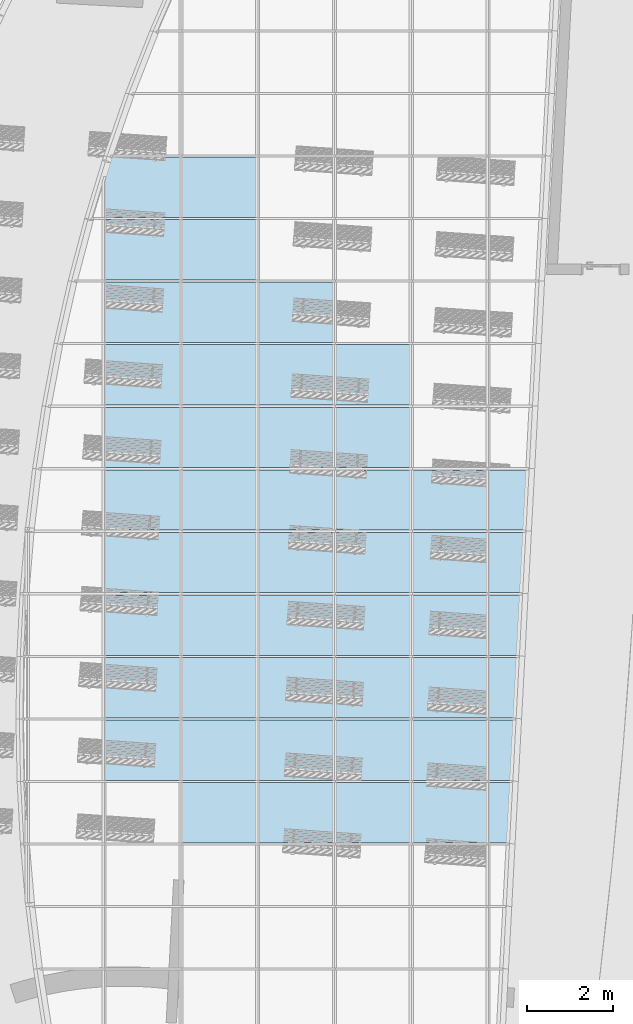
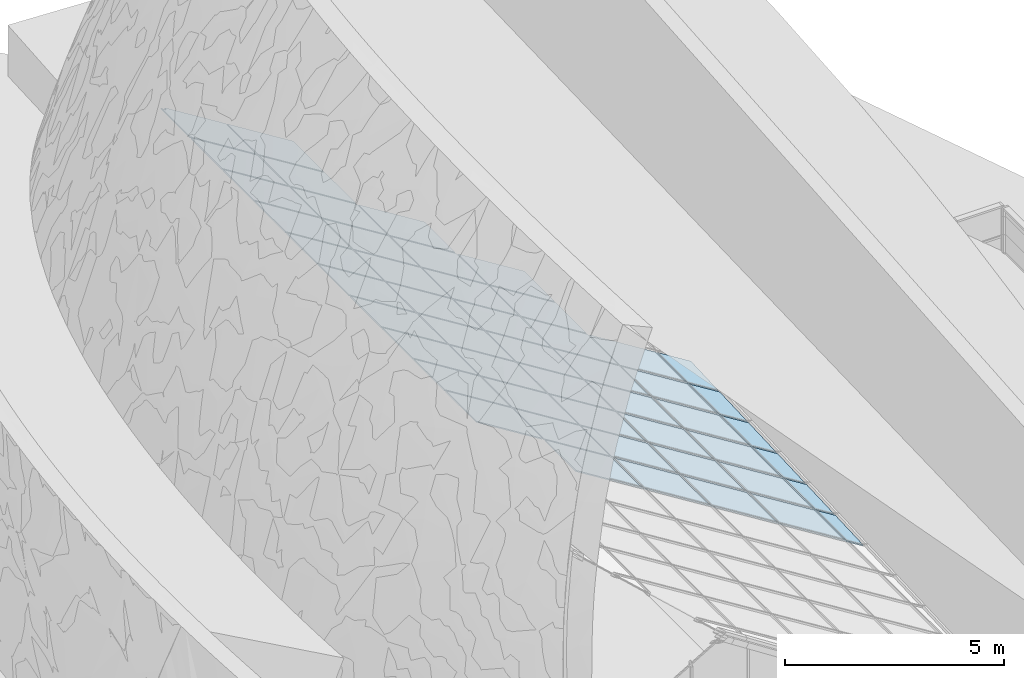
# One storey, part 40 of 82: 50 plates, 1 element without a shape of its own.
"""IFC2X3 building model written with IfcOpenShell, lengths in millimetres."""

from ifc_helpers import new_model, entity, si_unit, converted_unit, derived_unit, direction, frame, frame_2d, origin, place, context, subcontext, project, spatial, polyline, rectangle, outline, extrude, source, transform, mapped, material, layer, layer_set, layer_usage, type_object, type_shapes, element, aggregate, save


model = new_model("IFC2X3")

# Units and contexts
model_context = context("Model", 3, precision=0.01, world=origin(), true_north=direction((6.12303176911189e-17, 1.0)))
body_context = subcontext(model_context, "Body", "Model", "MODEL_VIEW")
ifc_project = project(units=[si_unit("LENGTHUNIT", "METRE", prefix="MILLI"), si_unit("AREAUNIT", "SQUARE_METRE"), si_unit("VOLUMEUNIT", "CUBIC_METRE"), converted_unit("PLANEANGLEUNIT", "DEGREE", entity("IfcRatioMeasure", 0.0174532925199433), si_unit("PLANEANGLEUNIT", "RADIAN"), dimensions=[0, 0, 0, 0, 0, 0, 0]), si_unit("MASSUNIT", "GRAM", prefix="KILO"), derived_unit("MASSDENSITYUNIT", [(si_unit("MASSUNIT", "GRAM", prefix="KILO"), 1), (si_unit("LENGTHUNIT", "METRE"), -3)]), si_unit("TIMEUNIT", "SECOND"), si_unit("FREQUENCYUNIT", "HERTZ"), si_unit("THERMODYNAMICTEMPERATUREUNIT", "DEGREE_CELSIUS"), derived_unit("THERMALTRANSMITTANCEUNIT", [(si_unit("MASSUNIT", "GRAM", prefix="KILO"), 1), (si_unit("THERMODYNAMICTEMPERATUREUNIT", "KELVIN"), -1), (si_unit("TIMEUNIT", "SECOND"), -3)]), derived_unit("VOLUMETRICFLOWRATEUNIT", [(si_unit("LENGTHUNIT", "METRE"), 3), (si_unit("TIMEUNIT", "SECOND"), -1)]), si_unit("ELECTRICCURRENTUNIT", "AMPERE"), si_unit("ELECTRICVOLTAGEUNIT", "VOLT"), si_unit("POWERUNIT", "WATT"), si_unit("FORCEUNIT", "NEWTON", prefix="KILO"), si_unit("ILLUMINANCEUNIT", "LUX"), si_unit("LUMINOUSFLUXUNIT", "LUMEN"), si_unit("LUMINOUSINTENSITYUNIT", "CANDELA"), derived_unit("USERDEFINED", [(si_unit("MASSUNIT", "GRAM", prefix="KILO"), -1), (si_unit("LENGTHUNIT", "METRE"), -2), (si_unit("TIMEUNIT", "SECOND"), 3), (si_unit("LUMINOUSFLUXUNIT", "LUMEN"), 1)]), derived_unit("LINEARVELOCITYUNIT", [(si_unit("LENGTHUNIT", "METRE"), 1), (si_unit("TIMEUNIT", "SECOND"), -1)]), si_unit("PRESSUREUNIT", "PASCAL"), derived_unit("USERDEFINED", [(si_unit("LENGTHUNIT", "METRE"), -2), (si_unit("MASSUNIT", "GRAM", prefix="KILO"), 1), (si_unit("TIMEUNIT", "SECOND"), -2)])], contexts=[model_context])

# Site, building, storey
site_placement = place(None, origin())
site = spatial("IfcSite", under=ifc_project, at=site_placement, Name="表面", CompositionType="ELEMENT")
building_placement = place(site_placement, origin())
building = spatial("IfcBuilding", under=site, at=building_placement, CompositionType="ELEMENT")
storey_placement = place(building_placement, origin())
storey = spatial("IfcBuildingStorey", under=building, at=storey_placement, Name="1F", CompositionType="ELEMENT", Elevation=0.0)

# Curtain wall, plates
curtain_wall_type = type_object("IfcCurtainWallType", Name="幕墙系统:1450 x 2100mm", PredefinedType="NOTDEFINED")
curtain_wall_placement = place(storey_placement, origin())
curtain_wall = element("IfcCurtainWall", 1, at=curtain_wall_placement, inside=storey, type_object=curtain_wall_type, Name="幕墙系统:1450 x 2100mm", ObjectType="幕墙系统:1450 x 2100mm")
ifc_material = material(Name="<Unnamed>")
ifc_layer = layer(ifc_material, 30.0)
ifc_layer_set = layer_set([ifc_layer], Name="幕墙系统:1450 x 2100mm")
ifc_layer_usage_1 = layer_usage(ifc_layer_set, "AXIS3", "POSITIVE", 0.0)
plate_type_1 = type_object("IfcPlateType", Name="玻璃", PredefinedType="CURTAIN_PANEL", material=ifc_layer_set)
shared_shape_1 = source(origin(), body_context, "Body", "SweptSolid", [
    extrude(rectangle(XDim=30.0, YDim=1400.0, at=frame_2d((0.0, 3.97903932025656e-13), x_axis=(1.0, 0.0))), frame((0.0, 0.0, 0.0), z_axis=(0.0, 0.0, 1.0), x_axis=(0.0, 1.0, 0.0)), (0.0, 0.0, 1.0), 2050.0),
])
type_shapes(plate_type_1, [shared_shape_1])
plate_1_placement = place(curtain_wall_placement, frame((-19940.3008154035, -12663.9031535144, 12156.2797786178), z_axis=(-0.848048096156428, 0.0, 0.529919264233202), x_axis=(0.0, -1.0, 0.0)))
plate_1 = element("IfcPlate", 2, at=plate_1_placement, type_object=plate_type_1, material=ifc_layer_usage_1, Name="系统嵌板:玻璃", ObjectType="玻璃", context=body_context, shape_type="MappedRepresentation", body=[
    mapped(shared_shape_1, transform((0.0, 0.0, 0.0), scale=1.0)),
])
ifc_layer_usage_2 = layer_usage(ifc_layer_set, "AXIS3", "POSITIVE", 0.0)
plate_2_placement = place(curtain_wall_placement, frame((-19940.3008154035, -14113.9031535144, 12156.2797786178), z_axis=(-0.848048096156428, 0.0, 0.529919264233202), x_axis=(0.0, -1.0, 0.0)))
plate_2 = element("IfcPlate", 3, at=plate_2_placement, type_object=plate_type_1, material=ifc_layer_usage_2, Name="系统嵌板:玻璃", ObjectType="玻璃", context=body_context, shape_type="MappedRepresentation", body=[
    mapped(shared_shape_1, transform((0.0, 0.0, 0.0), scale=1.0)),
])
ifc_layer_usage_3 = layer_usage(ifc_layer_set, "AXIS3", "POSITIVE", 0.0)
plate_3_placement = place(curtain_wall_placement, frame((-19940.3008154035, -15563.9031535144, 12156.2797786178), z_axis=(-0.848048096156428, 0.0, 0.529919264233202), x_axis=(0.0, -1.0, 0.0)))
plate_3 = element("IfcPlate", 4, at=plate_3_placement, type_object=plate_type_1, material=ifc_layer_usage_3, Name="系统嵌板:玻璃", ObjectType="玻璃", context=body_context, shape_type="MappedRepresentation", body=[
    mapped(shared_shape_1, transform((0.0, 0.0, 0.0), scale=1.0)),
])
ifc_layer_usage_4 = layer_usage(ifc_layer_set, "AXIS3", "POSITIVE", 0.0)
plate_4_placement = place(curtain_wall_placement, frame((-19940.3008154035, -17013.9031535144, 12156.2797786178), z_axis=(-0.848048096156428, 0.0, 0.529919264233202), x_axis=(0.0, -1.0, 0.0)))
plate_4 = element("IfcPlate", 5, at=plate_4_placement, type_object=plate_type_1, material=ifc_layer_usage_4, Name="系统嵌板:玻璃", ObjectType="玻璃", context=body_context, shape_type="MappedRepresentation", body=[
    mapped(shared_shape_1, transform((0.0, 0.0, 0.0), scale=1.0)),
])
ifc_layer_usage_5 = layer_usage(ifc_layer_set, "AXIS3", "POSITIVE", 0.0)
plate_5_placement = place(curtain_wall_placement, frame((-19940.3008154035, -18463.9031535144, 12156.2797786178), z_axis=(-0.848048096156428, 0.0, 0.529919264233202), x_axis=(0.0, -1.0, 0.0)))
plate_5 = element("IfcPlate", 6, at=plate_5_placement, type_object=plate_type_1, material=ifc_layer_usage_5, Name="系统嵌板:玻璃", ObjectType="玻璃", context=body_context, shape_type="MappedRepresentation", body=[
    mapped(shared_shape_1, transform((0.0, 0.0, 0.0), scale=1.0)),
])
ifc_layer_usage_6 = layer_usage(ifc_layer_set, "AXIS3", "POSITIVE", 0.0)
plate_6_placement = place(curtain_wall_placement, frame((-19940.3008154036, -19913.9031535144, 12156.2797786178), z_axis=(-0.848048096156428, 0.0, 0.529919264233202), x_axis=(0.0, -1.0, 0.0)))
plate_6 = element("IfcPlate", 7, at=plate_6_placement, type_object=plate_type_1, material=ifc_layer_usage_6, Name="系统嵌板:玻璃", ObjectType="玻璃", context=body_context, shape_type="MappedRepresentation", body=[
    mapped(shared_shape_1, transform((0.0, 0.0, 0.0), scale=1.0)),
])
ifc_layer_usage_7 = layer_usage(ifc_layer_set, "AXIS3", "POSITIVE", 0.0)
plate_7_placement = place(curtain_wall_placement, frame((-21721.201817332, -9763.90315351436, 13269.1102335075), z_axis=(-0.848048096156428, 0.0, 0.529919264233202), x_axis=(0.0, -1.0, 0.0)))
plate_7 = element("IfcPlate", 8, at=plate_7_placement, type_object=plate_type_1, material=ifc_layer_usage_7, Name="系统嵌板:玻璃", ObjectType="玻璃", context=body_context, shape_type="MappedRepresentation", body=[
    mapped(shared_shape_1, transform((0.0, 0.0, 0.0), scale=1.0)),
])
ifc_layer_usage_8 = layer_usage(ifc_layer_set, "AXIS3", "POSITIVE", 0.0)
plate_8_placement = place(curtain_wall_placement, frame((-21721.201817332, -11213.9031535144, 13269.1102335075), z_axis=(-0.848048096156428, 0.0, 0.529919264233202), x_axis=(0.0, -1.0, 0.0)))
plate_8 = element("IfcPlate", 9, at=plate_8_placement, type_object=plate_type_1, material=ifc_layer_usage_8, Name="系统嵌板:玻璃", ObjectType="玻璃", context=body_context, shape_type="MappedRepresentation", body=[
    mapped(shared_shape_1, transform((0.0, 0.0, 0.0), scale=1.0)),
])
ifc_layer_usage_9 = layer_usage(ifc_layer_set, "AXIS3", "POSITIVE", 0.0)
plate_9_placement = place(curtain_wall_placement, frame((-21721.201817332, -12663.9031535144, 13269.1102335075), z_axis=(-0.848048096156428, 0.0, 0.529919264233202), x_axis=(0.0, -1.0, 0.0)))
plate_9 = element("IfcPlate", 10, at=plate_9_placement, type_object=plate_type_1, material=ifc_layer_usage_9, Name="系统嵌板:玻璃", ObjectType="玻璃", context=body_context, shape_type="MappedRepresentation", body=[
    mapped(shared_shape_1, transform((0.0, 0.0, 0.0), scale=1.0)),
])
ifc_layer_usage_10 = layer_usage(ifc_layer_set, "AXIS3", "POSITIVE", 0.0)
plate_10_placement = place(curtain_wall_placement, frame((-21721.201817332, -14113.9031535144, 13269.1102335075), z_axis=(-0.848048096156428, 0.0, 0.529919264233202), x_axis=(0.0, -1.0, 0.0)))
plate_10 = element("IfcPlate", 11, at=plate_10_placement, type_object=plate_type_1, material=ifc_layer_usage_10, Name="系统嵌板:玻璃", ObjectType="玻璃", context=body_context, shape_type="MappedRepresentation", body=[
    mapped(shared_shape_1, transform((0.0, 0.0, 0.0), scale=1.0)),
])
ifc_layer_usage_11 = layer_usage(ifc_layer_set, "AXIS3", "POSITIVE", 0.0)
plate_11_placement = place(curtain_wall_placement, frame((-21721.201817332, -15563.9031535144, 13269.1102335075), z_axis=(-0.848048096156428, 0.0, 0.529919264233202), x_axis=(0.0, -1.0, 0.0)))
plate_11 = element("IfcPlate", 12, at=plate_11_placement, type_object=plate_type_1, material=ifc_layer_usage_11, Name="系统嵌板:玻璃", ObjectType="玻璃", context=body_context, shape_type="MappedRepresentation", body=[
    mapped(shared_shape_1, transform((0.0, 0.0, 0.0), scale=1.0)),
])
ifc_layer_usage_12 = layer_usage(ifc_layer_set, "AXIS3", "POSITIVE", 0.0)
plate_12_placement = place(curtain_wall_placement, frame((-21721.201817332, -17013.9031535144, 13269.1102335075), z_axis=(-0.848048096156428, 0.0, 0.529919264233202), x_axis=(0.0, -1.0, 0.0)))
plate_12 = element("IfcPlate", 13, at=plate_12_placement, type_object=plate_type_1, material=ifc_layer_usage_12, Name="系统嵌板:玻璃", ObjectType="玻璃", context=body_context, shape_type="MappedRepresentation", body=[
    mapped(shared_shape_1, transform((0.0, 0.0, 0.0), scale=1.0)),
])
ifc_layer_usage_13 = layer_usage(ifc_layer_set, "AXIS3", "POSITIVE", 0.0)
plate_13_placement = place(curtain_wall_placement, frame((-21721.201817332, -18463.9031535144, 13269.1102335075), z_axis=(-0.848048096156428, 0.0, 0.529919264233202), x_axis=(0.0, -1.0, 0.0)))
plate_13 = element("IfcPlate", 14, at=plate_13_placement, type_object=plate_type_1, material=ifc_layer_usage_13, Name="系统嵌板:玻璃", ObjectType="玻璃", context=body_context, shape_type="MappedRepresentation", body=[
    mapped(shared_shape_1, transform((0.0, 0.0, 0.0), scale=1.0)),
])
ifc_layer_usage_14 = layer_usage(ifc_layer_set, "AXIS3", "POSITIVE", 0.0)
plate_14_placement = place(curtain_wall_placement, frame((-21721.2018173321, -19913.9031535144, 13269.1102335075), z_axis=(-0.848048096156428, 0.0, 0.529919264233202), x_axis=(0.0, -1.0, 0.0)))
plate_14 = element("IfcPlate", 15, at=plate_14_placement, type_object=plate_type_1, material=ifc_layer_usage_14, Name="系统嵌板:玻璃", ObjectType="玻璃", context=body_context, shape_type="MappedRepresentation", body=[
    mapped(shared_shape_1, transform((0.0, 0.0, 0.0), scale=1.0)),
])
ifc_layer_usage_15 = layer_usage(ifc_layer_set, "AXIS3", "POSITIVE", 0.0)
plate_15_placement = place(curtain_wall_placement, frame((-23502.1028192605, -8313.90315351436, 14381.9406883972), z_axis=(-0.848048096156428, 0.0, 0.529919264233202), x_axis=(0.0, -1.0, 0.0)))
plate_15 = element("IfcPlate", 16, at=plate_15_placement, type_object=plate_type_1, material=ifc_layer_usage_15, Name="系统嵌板:玻璃", ObjectType="玻璃", context=body_context, shape_type="MappedRepresentation", body=[
    mapped(shared_shape_1, transform((0.0, 0.0, 0.0), scale=1.0)),
])
ifc_layer_usage_16 = layer_usage(ifc_layer_set, "AXIS3", "POSITIVE", 0.0)
plate_16_placement = place(curtain_wall_placement, frame((-23502.1028192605, -9763.90315351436, 14381.9406883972), z_axis=(-0.848048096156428, 0.0, 0.529919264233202), x_axis=(0.0, -1.0, 0.0)))
plate_16 = element("IfcPlate", 17, at=plate_16_placement, type_object=plate_type_1, material=ifc_layer_usage_16, Name="系统嵌板:玻璃", ObjectType="玻璃", context=body_context, shape_type="MappedRepresentation", body=[
    mapped(shared_shape_1, transform((0.0, 0.0, 0.0), scale=1.0)),
])
ifc_layer_usage_17 = layer_usage(ifc_layer_set, "AXIS3", "POSITIVE", 0.0)
plate_17_placement = place(curtain_wall_placement, frame((-23502.1028192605, -11213.9031535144, 14381.9406883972), z_axis=(-0.848048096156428, 0.0, 0.529919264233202), x_axis=(0.0, -1.0, 0.0)))
plate_17 = element("IfcPlate", 18, at=plate_17_placement, type_object=plate_type_1, material=ifc_layer_usage_17, Name="系统嵌板:玻璃", ObjectType="玻璃", context=body_context, shape_type="MappedRepresentation", body=[
    mapped(shared_shape_1, transform((0.0, 0.0, 0.0), scale=1.0)),
])
ifc_layer_usage_18 = layer_usage(ifc_layer_set, "AXIS3", "POSITIVE", 0.0)
plate_18_placement = place(curtain_wall_placement, frame((-23502.1028192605, -12663.9031535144, 14381.9406883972), z_axis=(-0.848048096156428, 0.0, 0.529919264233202), x_axis=(0.0, -1.0, 0.0)))
plate_18 = element("IfcPlate", 19, at=plate_18_placement, type_object=plate_type_1, material=ifc_layer_usage_18, Name="系统嵌板:玻璃", ObjectType="玻璃", context=body_context, shape_type="MappedRepresentation", body=[
    mapped(shared_shape_1, transform((0.0, 0.0, 0.0), scale=1.0)),
])
ifc_layer_usage_19 = layer_usage(ifc_layer_set, "AXIS3", "POSITIVE", 0.0)
plate_19_placement = place(curtain_wall_placement, frame((-23502.1028192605, -14113.9031535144, 14381.9406883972), z_axis=(-0.848048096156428, 0.0, 0.529919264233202), x_axis=(0.0, -1.0, 0.0)))
plate_19 = element("IfcPlate", 20, at=plate_19_placement, type_object=plate_type_1, material=ifc_layer_usage_19, Name="系统嵌板:玻璃", ObjectType="玻璃", context=body_context, shape_type="MappedRepresentation", body=[
    mapped(shared_shape_1, transform((0.0, 0.0, 0.0), scale=1.0)),
])
ifc_layer_usage_20 = layer_usage(ifc_layer_set, "AXIS3", "POSITIVE", 0.0)
plate_20_placement = place(curtain_wall_placement, frame((-23502.1028192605, -15563.9031535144, 14381.9406883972), z_axis=(-0.848048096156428, 0.0, 0.529919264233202), x_axis=(0.0, -1.0, 0.0)))
plate_20 = element("IfcPlate", 21, at=plate_20_placement, type_object=plate_type_1, material=ifc_layer_usage_20, Name="系统嵌板:玻璃", ObjectType="玻璃", context=body_context, shape_type="MappedRepresentation", body=[
    mapped(shared_shape_1, transform((0.0, 0.0, 0.0), scale=1.0)),
])
ifc_layer_usage_21 = layer_usage(ifc_layer_set, "AXIS3", "POSITIVE", 0.0)
plate_21_placement = place(curtain_wall_placement, frame((-23502.1028192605, -17013.9031535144, 14381.9406883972), z_axis=(-0.848048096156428, 0.0, 0.529919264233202), x_axis=(0.0, -1.0, 0.0)))
plate_21 = element("IfcPlate", 22, at=plate_21_placement, type_object=plate_type_1, material=ifc_layer_usage_21, Name="系统嵌板:玻璃", ObjectType="玻璃", context=body_context, shape_type="MappedRepresentation", body=[
    mapped(shared_shape_1, transform((0.0, 0.0, 0.0), scale=1.0)),
])
ifc_layer_usage_22 = layer_usage(ifc_layer_set, "AXIS3", "POSITIVE", 0.0)
plate_22_placement = place(curtain_wall_placement, frame((-23502.1028192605, -18463.9031535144, 14381.9406883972), z_axis=(-0.848048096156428, 0.0, 0.529919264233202), x_axis=(0.0, -1.0, 0.0)))
plate_22 = element("IfcPlate", 23, at=plate_22_placement, type_object=plate_type_1, material=ifc_layer_usage_22, Name="系统嵌板:玻璃", ObjectType="玻璃", context=body_context, shape_type="MappedRepresentation", body=[
    mapped(shared_shape_1, transform((0.0, 0.0, 0.0), scale=1.0)),
])
ifc_layer_usage_23 = layer_usage(ifc_layer_set, "AXIS3", "POSITIVE", 0.0)
plate_23_placement = place(curtain_wall_placement, frame((-23502.1028192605, -19913.9031535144, 14381.9406883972), z_axis=(-0.848048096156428, 0.0, 0.529919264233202), x_axis=(0.0, -1.0, 0.0)))
plate_23 = element("IfcPlate", 24, at=plate_23_placement, type_object=plate_type_1, material=ifc_layer_usage_23, Name="系统嵌板:玻璃", ObjectType="玻璃", context=body_context, shape_type="MappedRepresentation", body=[
    mapped(shared_shape_1, transform((0.0, 0.0, 0.0), scale=1.0)),
])
ifc_layer_usage_24 = layer_usage(ifc_layer_set, "AXIS3", "POSITIVE", 0.0)
plate_24_placement = place(curtain_wall_placement, frame((-25283.003821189, -5413.90315351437, 15494.7711432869), z_axis=(-0.848048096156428, 0.0, 0.529919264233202), x_axis=(0.0, -1.0, 0.0)))
plate_24 = element("IfcPlate", 25, at=plate_24_placement, type_object=plate_type_1, material=ifc_layer_usage_24, Name="系统嵌板:玻璃", ObjectType="玻璃", context=body_context, shape_type="MappedRepresentation", body=[
    mapped(shared_shape_1, transform((0.0, 0.0, 0.0), scale=1.0)),
])
ifc_layer_usage_25 = layer_usage(ifc_layer_set, "AXIS3", "POSITIVE", 0.0)
plate_25_placement = place(curtain_wall_placement, frame((-25283.003821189, -6863.90315351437, 15494.7711432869), z_axis=(-0.848048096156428, 0.0, 0.529919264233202), x_axis=(0.0, -1.0, 0.0)))
plate_25 = element("IfcPlate", 26, at=plate_25_placement, type_object=plate_type_1, material=ifc_layer_usage_25, Name="系统嵌板:玻璃", ObjectType="玻璃", context=body_context, shape_type="MappedRepresentation", body=[
    mapped(shared_shape_1, transform((0.0, 0.0, 0.0), scale=1.0)),
])
ifc_layer_usage_26 = layer_usage(ifc_layer_set, "AXIS3", "POSITIVE", 0.0)
plate_26_placement = place(curtain_wall_placement, frame((-25283.003821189, -8313.90315351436, 15494.7711432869), z_axis=(-0.848048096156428, 0.0, 0.529919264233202), x_axis=(0.0, -1.0, 0.0)))
plate_26 = element("IfcPlate", 27, at=plate_26_placement, type_object=plate_type_1, material=ifc_layer_usage_26, Name="系统嵌板:玻璃", ObjectType="玻璃", context=body_context, shape_type="MappedRepresentation", body=[
    mapped(shared_shape_1, transform((0.0, 0.0, 0.0), scale=1.0)),
])
ifc_layer_usage_27 = layer_usage(ifc_layer_set, "AXIS3", "POSITIVE", 0.0)
plate_27_placement = place(curtain_wall_placement, frame((-25283.003821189, -9763.90315351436, 15494.7711432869), z_axis=(-0.848048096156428, 0.0, 0.529919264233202), x_axis=(0.0, -1.0, 0.0)))
plate_27 = element("IfcPlate", 28, at=plate_27_placement, type_object=plate_type_1, material=ifc_layer_usage_27, Name="系统嵌板:玻璃", ObjectType="玻璃", context=body_context, shape_type="MappedRepresentation", body=[
    mapped(shared_shape_1, transform((0.0, 0.0, 0.0), scale=1.0)),
])
ifc_layer_usage_28 = layer_usage(ifc_layer_set, "AXIS3", "POSITIVE", 0.0)
plate_28_placement = place(curtain_wall_placement, frame((-25283.003821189, -11213.9031535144, 15494.7711432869), z_axis=(-0.848048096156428, 0.0, 0.529919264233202), x_axis=(0.0, -1.0, 0.0)))
plate_28 = element("IfcPlate", 29, at=plate_28_placement, type_object=plate_type_1, material=ifc_layer_usage_28, Name="系统嵌板:玻璃", ObjectType="玻璃", context=body_context, shape_type="MappedRepresentation", body=[
    mapped(shared_shape_1, transform((0.0, 0.0, 0.0), scale=1.0)),
])
ifc_layer_usage_29 = layer_usage(ifc_layer_set, "AXIS3", "POSITIVE", 0.0)
plate_29_placement = place(curtain_wall_placement, frame((-25283.003821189, -12663.9031535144, 15494.7711432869), z_axis=(-0.848048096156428, 0.0, 0.529919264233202), x_axis=(0.0, -1.0, 0.0)))
plate_29 = element("IfcPlate", 30, at=plate_29_placement, type_object=plate_type_1, material=ifc_layer_usage_29, Name="系统嵌板:玻璃", ObjectType="玻璃", context=body_context, shape_type="MappedRepresentation", body=[
    mapped(shared_shape_1, transform((0.0, 0.0, 0.0), scale=1.0)),
])
ifc_layer_usage_30 = layer_usage(ifc_layer_set, "AXIS3", "POSITIVE", 0.0)
plate_30_placement = place(curtain_wall_placement, frame((-25283.003821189, -14113.9031535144, 15494.7711432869), z_axis=(-0.848048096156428, 0.0, 0.529919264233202), x_axis=(0.0, -1.0, 0.0)))
plate_30 = element("IfcPlate", 31, at=plate_30_placement, type_object=plate_type_1, material=ifc_layer_usage_30, Name="系统嵌板:玻璃", ObjectType="玻璃", context=body_context, shape_type="MappedRepresentation", body=[
    mapped(shared_shape_1, transform((0.0, 0.0, 0.0), scale=1.0)),
])
ifc_layer_usage_31 = layer_usage(ifc_layer_set, "AXIS3", "POSITIVE", 0.0)
plate_31_placement = place(curtain_wall_placement, frame((-25283.003821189, -15563.9031535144, 15494.7711432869), z_axis=(-0.848048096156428, 0.0, 0.529919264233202), x_axis=(0.0, -1.0, 0.0)))
plate_31 = element("IfcPlate", 32, at=plate_31_placement, type_object=plate_type_1, material=ifc_layer_usage_31, Name="系统嵌板:玻璃", ObjectType="玻璃", context=body_context, shape_type="MappedRepresentation", body=[
    mapped(shared_shape_1, transform((0.0, 0.0, 0.0), scale=1.0)),
])
ifc_layer_usage_32 = layer_usage(ifc_layer_set, "AXIS3", "POSITIVE", 0.0)
plate_32_placement = place(curtain_wall_placement, frame((-25283.003821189, -17013.9031535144, 15494.7711432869), z_axis=(-0.848048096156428, 0.0, 0.529919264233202), x_axis=(0.0, -1.0, 0.0)))
plate_32 = element("IfcPlate", 33, at=plate_32_placement, type_object=plate_type_1, material=ifc_layer_usage_32, Name="系统嵌板:玻璃", ObjectType="玻璃", context=body_context, shape_type="MappedRepresentation", body=[
    mapped(shared_shape_1, transform((0.0, 0.0, 0.0), scale=1.0)),
])
ifc_layer_usage_33 = layer_usage(ifc_layer_set, "AXIS3", "POSITIVE", 0.0)
plate_33_placement = place(curtain_wall_placement, frame((-25283.003821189, -18463.9031535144, 15494.7711432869), z_axis=(-0.848048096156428, 0.0, 0.529919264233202), x_axis=(0.0, -1.0, 0.0)))
plate_33 = element("IfcPlate", 34, at=plate_33_placement, type_object=plate_type_1, material=ifc_layer_usage_33, Name="系统嵌板:玻璃", ObjectType="玻璃", context=body_context, shape_type="MappedRepresentation", body=[
    mapped(shared_shape_1, transform((0.0, 0.0, 0.0), scale=1.0)),
])
ifc_layer_usage_34 = layer_usage(ifc_layer_set, "AXIS3", "POSITIVE", 0.0)
plate_34_placement = place(curtain_wall_placement, frame((-25283.003821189, -19913.9031535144, 15494.7711432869), z_axis=(-0.848048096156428, 0.0, 0.529919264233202), x_axis=(0.0, -1.0, 0.0)))
plate_34 = element("IfcPlate", 35, at=plate_34_placement, type_object=plate_type_1, material=ifc_layer_usage_34, Name="系统嵌板:玻璃", ObjectType="玻璃", context=body_context, shape_type="MappedRepresentation", body=[
    mapped(shared_shape_1, transform((0.0, 0.0, 0.0), scale=1.0)),
])
ifc_layer_usage_35 = layer_usage(ifc_layer_set, "AXIS3", "POSITIVE", 0.0)
plate_35_placement = place(curtain_wall_placement, frame((-27063.9048231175, -6863.90315351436, 16607.6015981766), z_axis=(-0.848048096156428, 0.0, 0.529919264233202), x_axis=(0.0, -1.0, 0.0)))
plate_35 = element("IfcPlate", 36, at=plate_35_placement, type_object=plate_type_1, material=ifc_layer_usage_35, Name="系统嵌板:玻璃", ObjectType="玻璃", context=body_context, shape_type="MappedRepresentation", body=[
    mapped(shared_shape_1, transform((0.0, 0.0, 0.0), scale=1.0)),
])
ifc_layer_usage_36 = layer_usage(ifc_layer_set, "AXIS3", "POSITIVE", 0.0)
plate_36_placement = place(curtain_wall_placement, frame((-27063.9048231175, -8313.90315351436, 16607.6015981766), z_axis=(-0.848048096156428, 0.0, 0.529919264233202), x_axis=(0.0, -1.0, 0.0)))
plate_36 = element("IfcPlate", 37, at=plate_36_placement, type_object=plate_type_1, material=ifc_layer_usage_36, Name="系统嵌板:玻璃", ObjectType="玻璃", context=body_context, shape_type="MappedRepresentation", body=[
    mapped(shared_shape_1, transform((0.0, 0.0, 0.0), scale=1.0)),
])
ifc_layer_usage_37 = layer_usage(ifc_layer_set, "AXIS3", "POSITIVE", 0.0)
plate_37_placement = place(curtain_wall_placement, frame((-27063.9048231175, -9763.90315351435, 16607.6015981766), z_axis=(-0.848048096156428, 0.0, 0.529919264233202), x_axis=(0.0, -1.0, 0.0)))
plate_37 = element("IfcPlate", 38, at=plate_37_placement, type_object=plate_type_1, material=ifc_layer_usage_37, Name="系统嵌板:玻璃", ObjectType="玻璃", context=body_context, shape_type="MappedRepresentation", body=[
    mapped(shared_shape_1, transform((0.0, 0.0, 0.0), scale=1.0)),
])
ifc_layer_usage_38 = layer_usage(ifc_layer_set, "AXIS3", "POSITIVE", 0.0)
plate_38_placement = place(curtain_wall_placement, frame((-27063.9048231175, -11213.9031535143, 16607.6015981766), z_axis=(-0.848048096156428, 0.0, 0.529919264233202), x_axis=(0.0, -1.0, 0.0)))
plate_38 = element("IfcPlate", 39, at=plate_38_placement, type_object=plate_type_1, material=ifc_layer_usage_38, Name="系统嵌板:玻璃", ObjectType="玻璃", context=body_context, shape_type="MappedRepresentation", body=[
    mapped(shared_shape_1, transform((0.0, 0.0, 0.0), scale=1.0)),
])
ifc_layer_usage_39 = layer_usage(ifc_layer_set, "AXIS3", "POSITIVE", 0.0)
plate_39_placement = place(curtain_wall_placement, frame((-27063.9048231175, -12663.9031535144, 16607.6015981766), z_axis=(-0.848048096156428, 0.0, 0.529919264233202), x_axis=(0.0, -1.0, 0.0)))
plate_39 = element("IfcPlate", 40, at=plate_39_placement, type_object=plate_type_1, material=ifc_layer_usage_39, Name="系统嵌板:玻璃", ObjectType="玻璃", context=body_context, shape_type="MappedRepresentation", body=[
    mapped(shared_shape_1, transform((0.0, 0.0, 0.0), scale=1.0)),
])
ifc_layer_usage_40 = layer_usage(ifc_layer_set, "AXIS3", "POSITIVE", 0.0)
plate_40_placement = place(curtain_wall_placement, frame((-27063.9048231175, -14113.9031535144, 16607.6015981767), z_axis=(-0.848048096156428, 0.0, 0.529919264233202), x_axis=(0.0, -1.0, 0.0)))
plate_40 = element("IfcPlate", 41, at=plate_40_placement, type_object=plate_type_1, material=ifc_layer_usage_40, Name="系统嵌板:玻璃", ObjectType="玻璃", context=body_context, shape_type="MappedRepresentation", body=[
    mapped(shared_shape_1, transform((0.0, 0.0, 0.0), scale=1.0)),
])
ifc_layer_usage_41 = layer_usage(ifc_layer_set, "AXIS3", "POSITIVE", 0.0)
plate_41_placement = place(curtain_wall_placement, frame((-27063.9048231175, -15563.9031535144, 16607.6015981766), z_axis=(-0.848048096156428, 0.0, 0.529919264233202), x_axis=(0.0, -1.0, 0.0)))
plate_41 = element("IfcPlate", 42, at=plate_41_placement, type_object=plate_type_1, material=ifc_layer_usage_41, Name="系统嵌板:玻璃", ObjectType="玻璃", context=body_context, shape_type="MappedRepresentation", body=[
    mapped(shared_shape_1, transform((0.0, 0.0, 0.0), scale=1.0)),
])
ifc_layer_usage_42 = layer_usage(ifc_layer_set, "AXIS3", "POSITIVE", 0.0)
plate_42_placement = place(curtain_wall_placement, frame((-27063.9048231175, -17013.9031535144, 16607.6015981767), z_axis=(-0.848048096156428, 0.0, 0.529919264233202), x_axis=(0.0, -1.0, 0.0)))
plate_42 = element("IfcPlate", 43, at=plate_42_placement, type_object=plate_type_1, material=ifc_layer_usage_42, Name="系统嵌板:玻璃", ObjectType="玻璃", context=body_context, shape_type="MappedRepresentation", body=[
    mapped(shared_shape_1, transform((0.0, 0.0, 0.0), scale=1.0)),
])
ifc_layer_usage_43 = layer_usage(ifc_layer_set, "AXIS3", "POSITIVE", 0.0)
plate_43_placement = place(curtain_wall_placement, frame((-27063.9048231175, -18463.9031535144, 16607.6015981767), z_axis=(-0.848048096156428, 0.0, 0.529919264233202), x_axis=(0.0, -1.0, 0.0)))
plate_43 = element("IfcPlate", 44, at=plate_43_placement, type_object=plate_type_1, material=ifc_layer_usage_43, Name="系统嵌板:玻璃", ObjectType="玻璃", context=body_context, shape_type="MappedRepresentation", body=[
    mapped(shared_shape_1, transform((0.0, 0.0, 0.0), scale=1.0)),
])
ifc_layer_usage_44 = layer_usage(ifc_layer_set, "AXIS3", "POSITIVE", 0.0)
plate_type_2 = type_object("IfcPlateType", Name="玻璃", PredefinedType="CURTAIN_PANEL", material=ifc_layer_set)
shared_shape_2 = source(origin(), body_context, "Body", "SweptSolid", [
    extrude(outline(polyline([(-547.261944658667, -700.0), (504.003259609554, -700.0), (504.003259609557, 700.0), (-460.744574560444, 700.0), (-547.261944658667, -700.0)])), frame((0.0, -15.0, 547.261944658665), z_axis=(0.0, 1.0, 0.0), x_axis=(0.0, 0.0, 1.0)), (0.0, 0.0, 1.0), 30.0),
])
type_shapes(plate_type_2, [shared_shape_2])
plate_44_placement = place(curtain_wall_placement, frame((-19006.3749555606, -12663.9031535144, 11572.6981318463), z_axis=(-0.848048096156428, 0.0, 0.529919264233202), x_axis=(0.0, -1.0, 0.0)))
plate_44 = element("IfcPlate", 45, at=plate_44_placement, type_object=plate_type_2, material=ifc_layer_usage_44, Name="系统嵌板:玻璃", ObjectType="玻璃", context=body_context, shape_type="MappedRepresentation", body=[
    mapped(shared_shape_2, transform((0.0, 0.0, 0.0), scale=1.0)),
])
ifc_layer_usage_45 = layer_usage(ifc_layer_set, "AXIS3", "POSITIVE", 0.0)
plate_type_3 = type_object("IfcPlateType", Name="玻璃", PredefinedType="CURTAIN_PANEL", material=ifc_layer_set)
shared_shape_3 = source(origin(), body_context, "Body", "SweptSolid", [
    extrude(outline(polyline([(-502.458306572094, -700.0), (459.19962152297, -700.0), (459.199621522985, 700.0), (-415.940936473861, 700.0), (-502.458306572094, -700.0)])), frame((0.0, -15.0, 502.458306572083), z_axis=(0.0, 1.0, 0.0), x_axis=(0.0, 0.0, 1.0)), (0.0, 0.0, 1.0), 30.0),
])
type_shapes(plate_type_3, [shared_shape_3])
plate_45_placement = place(curtain_wall_placement, frame((-19082.366235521, -14113.9031535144, 11620.1827537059), z_axis=(-0.848048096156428, 0.0, 0.529919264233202), x_axis=(0.0, -1.0, 0.0)))
plate_45 = element("IfcPlate", 46, at=plate_45_placement, type_object=plate_type_3, material=ifc_layer_usage_45, Name="系统嵌板:玻璃", ObjectType="玻璃", context=body_context, shape_type="MappedRepresentation", body=[
    mapped(shared_shape_3, transform((0.0, 0.0, 0.0), scale=1.0)),
])
ifc_layer_usage_46 = layer_usage(ifc_layer_set, "AXIS3", "POSITIVE", 0.0)
plate_type_4 = type_object("IfcPlateType", Name="玻璃", PredefinedType="CURTAIN_PANEL", material=ifc_layer_set)
shared_shape_4 = source(origin(), body_context, "Body", "SweptSolid", [
    extrude(outline(polyline([(-457.654668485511, -700.0), (414.395983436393, -700.0), (414.395983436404, 700.0), (-371.137298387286, 700.0), (-457.654668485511, -700.0)])), frame((0.0, -15.0, 457.654668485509), z_axis=(0.0, 1.0, 0.0), x_axis=(0.0, 0.0, 1.0)), (0.0, 0.0, 1.0), 30.0),
])
type_shapes(plate_type_4, [shared_shape_4])
plate_46_placement = place(curtain_wall_placement, frame((-19158.3575154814, -15563.9031535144, 11667.6673755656), z_axis=(-0.848048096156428, 0.0, 0.529919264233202), x_axis=(0.0, -1.0, 0.0)))
plate_46 = element("IfcPlate", 47, at=plate_46_placement, type_object=plate_type_4, material=ifc_layer_usage_46, Name="系统嵌板:玻璃", ObjectType="玻璃", context=body_context, shape_type="MappedRepresentation", body=[
    mapped(shared_shape_4, transform((0.0, 0.0, 0.0), scale=1.0)),
])
ifc_layer_usage_47 = layer_usage(ifc_layer_set, "AXIS3", "POSITIVE", 0.0)
plate_type_5 = type_object("IfcPlateType", Name="玻璃", PredefinedType="CURTAIN_PANEL", material=ifc_layer_set)
shared_shape_5 = source(origin(), body_context, "Body", "SweptSolid", [
    extrude(outline(polyline([(-412.851030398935, -700.0), (369.592345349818, -700.0), (369.592345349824, 700.0), (-326.333660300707, 700.0), (-412.851030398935, -700.0)])), frame((0.0, -15.0, 412.851030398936), z_axis=(0.0, 1.0, 0.0), x_axis=(0.0, 0.0, 1.0)), (0.0, 0.0, 1.0), 30.0),
])
type_shapes(plate_type_5, [shared_shape_5])
plate_47_placement = place(curtain_wall_placement, frame((-19234.3487954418, -17013.9031535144, 11715.1519974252), z_axis=(-0.848048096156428, 0.0, 0.529919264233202), x_axis=(0.0, -1.0, 0.0)))
plate_47 = element("IfcPlate", 48, at=plate_47_placement, type_object=plate_type_5, material=ifc_layer_usage_47, Name="系统嵌板:玻璃", ObjectType="玻璃", context=body_context, shape_type="MappedRepresentation", body=[
    mapped(shared_shape_5, transform((0.0, 0.0, 0.0), scale=1.0)),
])
ifc_layer_usage_48 = layer_usage(ifc_layer_set, "AXIS3", "POSITIVE", 0.0)
plate_type_6 = type_object("IfcPlateType", Name="玻璃", PredefinedType="CURTAIN_PANEL", material=ifc_layer_set)
shared_shape_6 = source(origin(), body_context, "Body", "SweptSolid", [
    extrude(outline(polyline([(-368.047392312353, -700.0), (324.788707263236, -700.0), (324.788707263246, 700.0), (-281.530022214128, 700.0), (-368.047392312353, -700.0)])), frame((0.0, -15.0, 368.047392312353), z_axis=(0.0, 1.0, 0.0), x_axis=(0.0, 0.0, 1.0)), (0.0, 0.0, 1.0), 30.0),
])
type_shapes(plate_type_6, [shared_shape_6])
plate_48_placement = place(curtain_wall_placement, frame((-19310.3400754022, -18463.9031535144, 11762.6366192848), z_axis=(-0.848048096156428, 0.0, 0.529919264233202), x_axis=(0.0, -1.0, 0.0)))
plate_48 = element("IfcPlate", 49, at=plate_48_placement, type_object=plate_type_6, material=ifc_layer_usage_48, Name="系统嵌板:玻璃", ObjectType="玻璃", context=body_context, shape_type="MappedRepresentation", body=[
    mapped(shared_shape_6, transform((0.0, 0.0, 0.0), scale=1.0)),
])
ifc_layer_usage_49 = layer_usage(ifc_layer_set, "AXIS3", "POSITIVE", 0.0)
plate_type_7 = type_object("IfcPlateType", Name="玻璃", PredefinedType="CURTAIN_PANEL", material=ifc_layer_set)
shared_shape_7 = source(origin(), body_context, "Body", "SweptSolid", [
    extrude(outline(polyline([(-323.243754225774, -700.0), (279.985069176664, -700.0), (279.985069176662, 700.0), (-236.726384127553, 700.0), (-323.243754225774, -700.0)])), frame((0.0, -15.0, 323.243754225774), z_axis=(0.0, 1.0, 0.0), x_axis=(0.0, 0.0, 1.0)), (0.0, 0.0, 1.0), 30.0),
])
type_shapes(plate_type_7, [shared_shape_7])
plate_49_placement = place(curtain_wall_placement, frame((-19386.3313553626, -19913.9031535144, 11810.1212411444), z_axis=(-0.848048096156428, 0.0, 0.529919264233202), x_axis=(0.0, -1.0, 0.0)))
plate_49 = element("IfcPlate", 50, at=plate_49_placement, type_object=plate_type_7, material=ifc_layer_usage_49, Name="系统嵌板:玻璃", ObjectType="玻璃", context=body_context, shape_type="MappedRepresentation", body=[
    mapped(shared_shape_7, transform((0.0, 0.0, 0.0), scale=1.0)),
])
ifc_layer_usage_50 = layer_usage(ifc_layer_set, "AXIS3", "POSITIVE", 0.0)
plate_type_8 = type_object("IfcPlateType", Name="玻璃", PredefinedType="CURTAIN_PANEL", material=ifc_layer_set)
shared_shape_8 = source(origin(), body_context, "Body", "SweptSolid", [
    extrude(outline(polyline([(-1320.3195798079, -499.509569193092), (566.745600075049, -499.509569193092), (614.532719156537, -374.24782075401), (729.680420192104, -427.713902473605), (729.680420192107, 900.4904308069), (-1320.3195798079, 900.490430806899), (-1320.3195798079, -499.509569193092)])), frame((-200.490430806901, -15.0, 1320.3195798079), z_axis=(0.0, 1.0, 0.0), x_axis=(0.0, 0.0, 1.0)), (0.0, 0.0, 1.0), 30.0),
])
type_shapes(plate_type_8, [shared_shape_8])
plate_50_placement = place(curtain_wall_placement, frame((-27063.9048231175, -5413.90315351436, 16607.6015981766), z_axis=(-0.848048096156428, 0.0, 0.529919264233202), x_axis=(0.0, -1.0, 0.0)))
plate_50 = element("IfcPlate", 51, at=plate_50_placement, type_object=plate_type_8, material=ifc_layer_usage_50, Name="系统嵌板:玻璃", ObjectType="玻璃", context=body_context, shape_type="MappedRepresentation", body=[
    mapped(shared_shape_8, transform((0.0, 0.0, 0.0), scale=1.0)),
])
aggregate(curtain_wall, [plate_44, plate_45, plate_46, plate_47, plate_48, plate_49, plate_1, plate_2, plate_3, plate_4, plate_5, plate_6, plate_7, plate_8, plate_9, plate_10, plate_11, plate_12, plate_13, plate_14, plate_15, plate_16, plate_17, plate_18, plate_19, plate_20, plate_21, plate_22, plate_23, plate_24, plate_25, plate_26, plate_27, plate_28, plate_29, plate_30, plate_31, plate_32, plate_33, plate_34, plate_50, plate_35, plate_36, plate_37, plate_38, plate_39, plate_40, plate_41, plate_42, plate_43])

save(model, "model.ifc")
